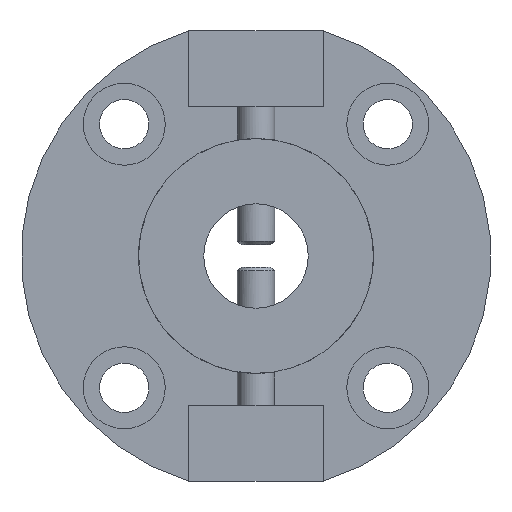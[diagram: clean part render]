
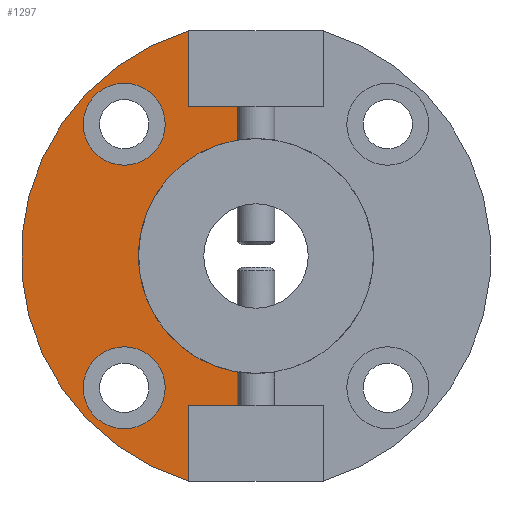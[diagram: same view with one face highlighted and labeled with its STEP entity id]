
A CAD part, front view. The second image highlights one B-rep face of the part: STEP entity #1297.
In plain terms, the highlighted planar face has unit normal (0, -1, 0).
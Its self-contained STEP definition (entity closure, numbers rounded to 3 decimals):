
#59=LINE('',#1977,#171);
#60=LINE('',#1980,#172);
#61=LINE('',#1982,#173);
#62=LINE('',#1984,#174);
#63=LINE('',#1988,#175);
#64=LINE('',#1990,#176);
#65=LINE('',#1992,#177);
#66=LINE('',#1994,#178);
#171=VECTOR('',#1571,1000.);
#172=VECTOR('',#1572,1000.);
#173=VECTOR('',#1573,1000.);
#174=VECTOR('',#1574,1000.);
#175=VECTOR('',#1577,1000.);
#176=VECTOR('',#1578,1000.);
#177=VECTOR('',#1579,1000.);
#178=VECTOR('',#1580,1000.);
#288=ORIENTED_EDGE('',*,*,#630,.T.);
#289=ORIENTED_EDGE('',*,*,#631,.T.);
#290=ORIENTED_EDGE('',*,*,#632,.F.);
#291=ORIENTED_EDGE('',*,*,#633,.T.);
#292=ORIENTED_EDGE('',*,*,#634,.F.);
#293=ORIENTED_EDGE('',*,*,#635,.T.);
#294=ORIENTED_EDGE('',*,*,#636,.F.);
#295=ORIENTED_EDGE('',*,*,#637,.T.);
#296=ORIENTED_EDGE('',*,*,#638,.F.);
#297=ORIENTED_EDGE('',*,*,#639,.F.);
#298=ORIENTED_EDGE('',*,*,#640,.F.);
#299=ORIENTED_EDGE('',*,*,#641,.F.);
#630=EDGE_CURVE('',#801,#801,#912,.T.);
#631=EDGE_CURVE('',#802,#802,#913,.T.);
#632=EDGE_CURVE('',#803,#804,#59,.T.);
#633=EDGE_CURVE('',#803,#805,#60,.T.);
#634=EDGE_CURVE('',#806,#805,#61,.T.);
#635=EDGE_CURVE('',#806,#807,#62,.T.);
#636=EDGE_CURVE('',#808,#807,#914,.T.);
#637=EDGE_CURVE('',#808,#809,#63,.T.);
#638=EDGE_CURVE('',#810,#809,#64,.T.);
#639=EDGE_CURVE('',#811,#810,#65,.T.);
#640=EDGE_CURVE('',#812,#811,#66,.T.);
#641=EDGE_CURVE('',#804,#812,#915,.F.);
#801=VERTEX_POINT('',#1974);
#802=VERTEX_POINT('',#1976);
#803=VERTEX_POINT('',#1978);
#804=VERTEX_POINT('',#1979);
#805=VERTEX_POINT('',#1981);
#806=VERTEX_POINT('',#1983);
#807=VERTEX_POINT('',#1985);
#808=VERTEX_POINT('',#1987);
#809=VERTEX_POINT('',#1989);
#810=VERTEX_POINT('',#1991);
#811=VERTEX_POINT('',#1993);
#812=VERTEX_POINT('',#1995);
#912=CIRCLE('',#1402,5.5);
#913=CIRCLE('',#1403,5.5);
#914=CIRCLE('',#1404,31.5);
#915=CIRCLE('',#1405,15.75);
#967=EDGE_LOOP('',(#288));
#968=EDGE_LOOP('',(#289));
#969=EDGE_LOOP('',(#290,#291,#292,#293,#294,#295,#296,#297,#298,#299));
#1105=FACE_BOUND('',#967,.T.);
#1106=FACE_BOUND('',#968,.T.);
#1107=FACE_BOUND('',#969,.T.);
#1240=PLANE('',#1401);
#1297=ADVANCED_FACE('',(#1105,#1106,#1107),#1240,.F.);
#1401=AXIS2_PLACEMENT_3D('',#1972,#1565,#1566);
#1402=AXIS2_PLACEMENT_3D('',#1973,#1567,#1568);
#1403=AXIS2_PLACEMENT_3D('',#1975,#1569,#1570);
#1404=AXIS2_PLACEMENT_3D('',#1986,#1575,#1576);
#1405=AXIS2_PLACEMENT_3D('',#1996,#1581,#1582);
#1565=DIRECTION('',(0.,1.,0.));
#1566=DIRECTION('',(0.,0.,1.));
#1567=DIRECTION('',(0.,1.,0.));
#1568=DIRECTION('',(1.,0.,0.));
#1569=DIRECTION('',(0.,1.,0.));
#1570=DIRECTION('',(1.,0.,0.));
#1571=DIRECTION('',(0.,0.,-1.));
#1572=DIRECTION('',(-1.,0.,0.));
#1573=DIRECTION('',(0.,0.,-1.));
#1574=DIRECTION('',(0.,0.,1.));
#1575=DIRECTION('',(0.,1.,0.));
#1576=DIRECTION('',(1.,0.,0.));
#1577=DIRECTION('',(0.,0.,1.));
#1578=DIRECTION('',(0.,0.,-1.));
#1579=DIRECTION('',(-1.,0.,0.));
#1580=DIRECTION('',(0.,0.,-1.));
#1581=DIRECTION('',(0.,1.,0.));
#1582=DIRECTION('',(0.,0.,1.));
#1972=CARTESIAN_POINT('',(0.,0.,0.));
#1973=CARTESIAN_POINT('',(-17.678,0.,17.678));
#1974=CARTESIAN_POINT('',(-12.178,0.,17.678));
#1975=CARTESIAN_POINT('',(-17.678,0.,-17.678));
#1976=CARTESIAN_POINT('',(-12.178,0.,-17.678));
#1977=CARTESIAN_POINT('',(-2.492,0.,1.5));
#1978=CARTESIAN_POINT('',(-2.492,0.,23.));
#1979=CARTESIAN_POINT('',(-2.492,0.,15.552));
#1980=CARTESIAN_POINT('',(9.,0.,23.));
#1981=CARTESIAN_POINT('',(-9.,0.,23.));
#1982=CARTESIAN_POINT('',(-9.,0.,24.));
#1983=CARTESIAN_POINT('',(-9.,0.,24.));
#1984=CARTESIAN_POINT('',(-9.,0.,24.));
#1985=CARTESIAN_POINT('',(-9.,0.,30.187));
#1986=CARTESIAN_POINT('',(0.,0.,0.));
#1987=CARTESIAN_POINT('',(-9.,0.,-30.187));
#1988=CARTESIAN_POINT('',(-9.,0.,-30.187));
#1989=CARTESIAN_POINT('',(-9.,0.,-24.));
#1990=CARTESIAN_POINT('',(-9.,0.,-23.));
#1991=CARTESIAN_POINT('',(-9.,0.,-23.));
#1992=CARTESIAN_POINT('',(9.,0.,-23.));
#1993=CARTESIAN_POINT('',(-2.492,0.,-23.));
#1994=CARTESIAN_POINT('',(-2.492,0.,-28.));
#1995=CARTESIAN_POINT('',(-2.492,0.,-15.552));
#1996=CARTESIAN_POINT('',(0.,0.,0.));
